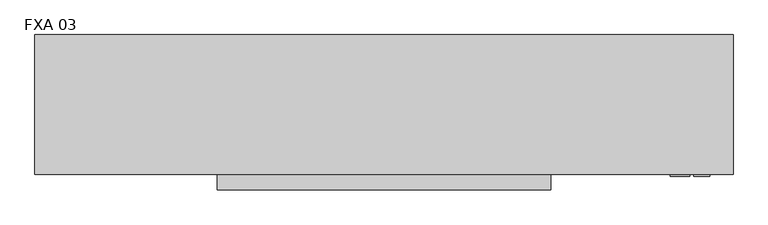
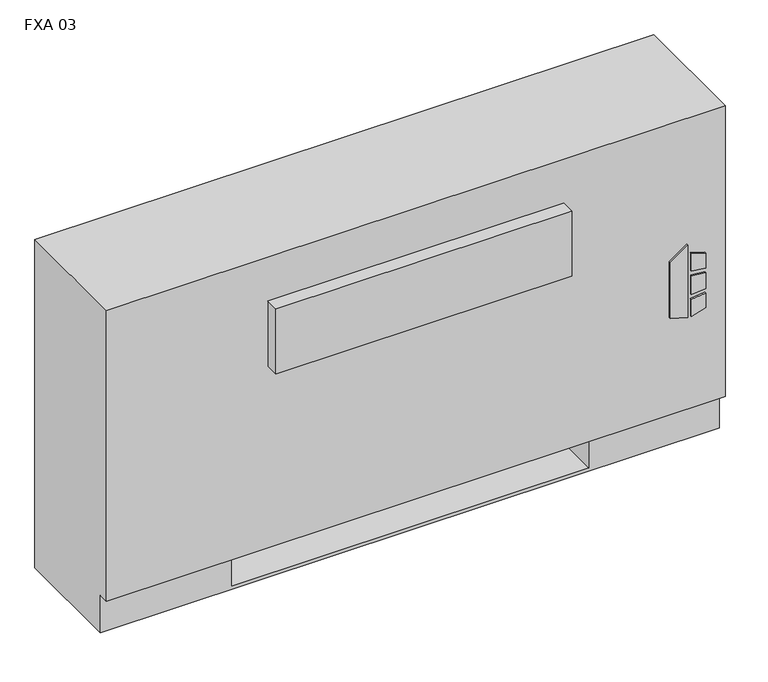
"""IFC4 building model written with IfcOpenShell, lengths in millimetres: proxy geometry, Vertical_Fan_Coil_Unit_-_FXA_-_IEC_-_2-Pipe_FS-FR_LH_2022 : FXA 03."""

from ifc_helpers import new_model, si_unit, point, frame, frame_2d, origin, place, context, project, spatial, polyline, circle_curve, trimmed, segment, composite_curve, outline, extrude, source, transform, mapped, element, save
from ifc_brep_helpers import plane_surface, revolved_surface, advanced_brep


def fxa_03_67163777(model_context):
    return source(origin(), model_context, "Body", "SolidModel", [
        extrude(outline(polyline([(263.9480703, 620.7868862), (254.0, 652.9602728), (396.1709244, 652.9602728), (373.1489183, 620.7868862), (263.9480703, 620.7868862)])), frame((0.0, 12.7, 0.0), z_axis=(0.0, 1.0, 0.0), x_axis=(0.0, 0.0, 1.0)), (0.0, 0.0, 1.0), 3.175),
        extrude(outline(polyline([(342.9473557, 659.7186058), (339.7449632, 685.8), (368.9738042, 685.8), (377.0382193, 659.7186058), (342.9473557, 659.7186058)])), frame((0.0, 12.7, 0.0), z_axis=(0.0, 1.0, 0.0), x_axis=(0.0, 0.0, 1.0)), (0.0, 0.0, 1.0), 3.175),
        extrude(outline(polyline([(291.0838288, 685.8), (287.4183279, 659.7186058), (254.0, 659.7186058), (262.6342372, 685.8), (291.0838288, 685.8)])), frame((0.0, 12.7, 0.0), z_axis=(0.0, 1.0, 0.0), x_axis=(0.0, 0.0, 1.0)), (0.0, 0.0, 1.0), 3.175),
        extrude(outline(polyline([(330.3989903, 685.8), (332.6808166, 659.7186058), (296.7432681, 659.7186058), (299.4845331, 685.8), (330.3989903, 685.8)])), frame((0.0, 12.7, 0.0), z_axis=(0.0, 1.0, 0.0), x_axis=(0.0, 0.0, 1.0)), (0.0, 0.0, 1.0), 3.175),
        extrude(outline(polyline([(603.25, 223.266), (603.25, 81.534), (482.6, 81.534), (482.6, 223.266), (603.25, 223.266)])), frame((0.0, 0.0, 327.025), z_axis=(0.0, 0.0, 1.0), x_axis=(1.0, 0.0, 0.0)), (0.0, 0.0, 1.0), 260.35),
        extrude(outline(composite_curve([segment(trimmed(circle_curve(frame_2d((-241.3, 130.175)), 9.525), [point((-250.825, 130.175))], [point((-231.775, 130.175))], False, "CARTESIAN"), True, "CONTINUOUS"), segment(trimmed(circle_curve(frame_2d((-241.3, 130.175)), 9.525), [point((-231.775, 130.175))], [point((-250.825, 130.175))], False, "CARTESIAN"), True, "CONTINUOUS")], self_intersect=False)), frame((0.0, 0.0, 101.6), z_axis=(0.0, 0.0, 1.0), x_axis=(1.0, 0.0, 0.0)), (0.0, 0.0, 1.0), 25.4),
        extrude(outline(polyline([(-342.9, 63.5), (-342.9, 196.85), (-177.8, 196.85), (-177.8, 63.5), (-342.9, 63.5)])), frame((0.0, 0.0, 127.0), z_axis=(0.0, 0.0, 1.0), x_axis=(1.0, 0.0, 0.0)), (0.0, 0.0, 1.0), 50.8),
        extrude(outline(polyline([(425.45, -9.525), (-120.65, -9.525), (-120.65, 15.875), (425.45, 15.875), (425.45, -9.525)])), frame((0.0, 0.0, 428.625), z_axis=(0.0, 0.0, 1.0), x_axis=(1.0, 0.0, 0.0)), (0.0, 0.0, 1.0), 127.0),
        extrude(outline(composite_curve([segment(trimmed(circle_curve(frame_2d((93.1926, 485.5972)), 7.9375), [point((93.1926, 493.5347))], [point((93.1926, 477.6597))], False, "CARTESIAN"), True, "CONTINUOUS"), segment(trimmed(circle_curve(frame_2d((93.1926, 485.5972)), 7.9375), [point((93.1926, 477.6597))], [point((93.1926, 493.5347))], False, "CARTESIAN"), True, "CONTINUOUS")], self_intersect=False)), frame((-228.6, 0.0, 0.0), z_axis=(1.0, 0.0, 0.0), x_axis=(0.0, 1.0, 0.0)), (0.0, 0.0, 1.0), 50.8),
        extrude(outline(composite_curve([segment(trimmed(circle_curve(frame_2d((141.3002, 458.9526)), 7.9375), [point((141.3002, 466.8901))], [point((141.3002, 451.0151))], False, "CARTESIAN"), True, "CONTINUOUS"), segment(trimmed(circle_curve(frame_2d((141.3002, 458.9526)), 7.9375), [point((141.3002, 451.0151))], [point((141.3002, 466.8901))], False, "CARTESIAN"), True, "CONTINUOUS")], self_intersect=False)), frame((-228.6, 0.0, 0.0), z_axis=(1.0, 0.0, 0.0), x_axis=(0.0, 1.0, 0.0)), (0.0, 0.0, 1.0), 50.8),
        advanced_brep(
        [(723.9, 244.475, 641.35), (-419.1, 244.475, 641.35), (-419.1, 15.875, 641.35), (723.9, 15.875, 641.35), (-419.1, 244.475, 0.0), (723.9, 244.475, 0.0), (723.9, 34.925, 0.0), (-419.1, 34.925, 0.0), (482.6, 244.475, 73.025), (711.2, 244.475, 73.025), (711.2, 244.475, 628.65), (482.6, 244.475, 628.65), (482.6, 244.475, 414.8650565), (511.175, 244.475, 414.8650565), (511.175, 244.475, 385.2349435), (482.6, 244.475, 385.2349435), (482.6, 244.475, 287.3375), (511.175, 244.475, 287.3375), (511.175, 244.475, 258.7625), (482.6, 244.475, 258.7625), (482.6, 244.475, 141.2875), (511.175, 244.475, 141.2875), (511.175, 244.475, 112.7125), (482.6, 244.475, 112.7125), (-177.8, 244.475, 628.65), (-406.4, 244.475, 628.65), (-406.4, 244.475, 73.025), (-177.8, 244.475, 73.025), (-177.8, 244.475, 112.7125), (-206.375, 244.475, 112.7125), (-206.375, 244.475, 141.2875), (-177.8, 244.475, 141.2875), (-177.8, 244.475, 258.7625), (-206.375, 244.475, 258.7625), (-206.375, 244.475, 287.3375), (-177.8, 244.475, 287.3375), (-177.8, 244.475, 385.2349435), (-206.375, 244.475, 385.2349435), (-206.375, 244.475, 414.8650565), (-177.8, 244.475, 414.8650565), (500.8626, 244.475, 127.0), (489.7374, 244.475, 127.0), (500.8626, 244.475, 400.05), (489.7374, 244.475, 400.05), (500.8626, 244.475, 273.05), (489.7374, 244.475, 273.05), (-184.9374, 244.475, 127.0), (-196.0626, 244.475, 127.0), (-184.9374, 244.475, 273.05), (-196.0626, 244.475, 273.05), (-184.9374, 244.475, 400.05), (-196.0626, 244.475, 400.05), (-419.1, 34.925, 73.025), (-419.1, 15.875, 73.025), (723.9, 15.875, 73.025), (723.9, 34.925, 73.025), (-177.8, 34.925, 73.025), (-177.8, 219.075, 73.025), (482.6, 219.075, 73.025), (482.6, 34.925, 73.025), (482.6, 34.925, 6.35), (-177.8, 34.925, 6.35), (482.6, 41.275, 628.65), (711.2, 41.275, 628.65), (711.2, 41.275, 73.025), (482.6, 41.275, 73.025), (-177.8, 41.275, 628.65), (-177.8, 41.275, 73.025), (-406.4, 41.275, 73.025), (-406.4, 41.275, 628.65), (482.6, 219.075, 73.025), (482.6, 238.125, 112.7125), (482.6, 238.125, 141.2875), (482.6, 238.125, 258.7625), (482.6, 238.125, 287.3375), (482.6, 238.125, 385.2349435), (482.6, 238.125, 414.8650565), (-177.8, 219.075, 73.025), (-177.8, 238.125, 414.8650565), (-177.8, 238.125, 385.2349435), (-177.8, 238.125, 287.3375), (-177.8, 238.125, 258.7625), (-177.8, 238.125, 141.2875), (-177.8, 238.125, 112.7125), (-177.8, 219.075, 6.35), (482.6, 219.075, 6.35), (511.175, 238.125, 112.7125), (511.175, 238.125, 141.2875), (489.7374, 238.125, 127.0), (500.8626, 238.125, 127.0), (511.175, 238.125, 258.7625), (511.175, 238.125, 287.3375), (489.7374, 238.125, 273.05), (500.8626, 238.125, 273.05), (511.175, 238.125, 385.2349435), (511.175, 238.125, 414.8650565), (489.7374, 238.125, 400.05), (500.8626, 238.125, 400.05), (-206.375, 238.125, 141.2875), (-206.375, 238.125, 112.7125), (-196.0626, 238.125, 127.0), (-184.9374, 238.125, 127.0), (-206.375, 238.125, 287.3375), (-206.375, 238.125, 258.7625), (-196.0626, 238.125, 273.05), (-184.9374, 238.125, 273.05), (-206.375, 238.125, 414.8650565), (-206.375, 238.125, 385.2349435), (-196.0626, 238.125, 400.05), (-184.9374, 238.125, 400.05)],
        [
            (0, 1),
            (1, 2),
            (2, 3),
            (3, 0),
            (4, 5),
            (5, 6),
            (6, 7),
            (7, 4),
            (0, 5),
            (4, 1),
            (8, 9),
            (9, 10),
            (10, 11),
            (11, 12),
            (12, 13),
            (13, 14),
            (14, 15),
            (15, 16),
            (16, 17),
            (17, 18),
            (18, 19),
            (19, 20),
            (20, 21),
            (21, 22),
            (22, 23),
            (23, 8),
            (24, 25),
            (25, 26),
            (26, 27),
            (27, 28),
            (28, 29),
            (29, 30),
            (30, 31),
            (31, 32),
            (32, 33),
            (33, 34),
            (34, 35),
            (35, 36),
            (36, 37),
            (37, 38),
            (38, 39),
            (39, 24),
            (40, 41, circle_curve(frame((495.3, 244.475, 127.0), z_axis=(0.0, -1.0, 0.0), x_axis=(-1.0, 0.0, 0.0)), 5.5626)),
            (41, 40, circle_curve(frame((495.3, 244.475, 127.0), z_axis=(0.0, -1.0, 0.0), x_axis=(-1.0, 0.0, 0.0)), 5.5626)),
            (42, 43, circle_curve(frame((495.3, 244.475, 400.05), z_axis=(0.0, -1.0, 0.0), x_axis=(-1.0, 0.0, 0.0)), 5.5626)),
            (43, 42, circle_curve(frame((495.3, 244.475, 400.05), z_axis=(0.0, -1.0, 0.0), x_axis=(-1.0, 0.0, 0.0)), 5.5626)),
            (44, 45, circle_curve(frame((495.3, 244.475, 273.05), z_axis=(0.0, -1.0, 0.0), x_axis=(-1.0, 0.0, 0.0)), 5.5626)),
            (45, 44, circle_curve(frame((495.3, 244.475, 273.05), z_axis=(0.0, -1.0, 0.0), x_axis=(-1.0, 0.0, 0.0)), 5.5626)),
            (46, 47, circle_curve(frame((-190.5, 244.475, 127.0), z_axis=(0.0, -1.0, 0.0), x_axis=(-1.0, 0.0, 0.0)), 5.5626)),
            (47, 46, circle_curve(frame((-190.5, 244.475, 127.0), z_axis=(0.0, -1.0, 0.0), x_axis=(-1.0, 0.0, 0.0)), 5.5626)),
            (48, 49, circle_curve(frame((-190.5, 244.475, 273.05), z_axis=(0.0, -1.0, 0.0), x_axis=(-1.0, 0.0, 0.0)), 5.5626)),
            (49, 48, circle_curve(frame((-190.5, 244.475, 273.05), z_axis=(0.0, -1.0, 0.0), x_axis=(-1.0, 0.0, 0.0)), 5.5626)),
            (50, 51, circle_curve(frame((-190.5, 244.475, 400.05), z_axis=(0.0, -1.0, 0.0), x_axis=(-1.0, 0.0, 0.0)), 5.5626)),
            (51, 50, circle_curve(frame((-190.5, 244.475, 400.05), z_axis=(0.0, -1.0, 0.0), x_axis=(-1.0, 0.0, 0.0)), 5.5626)),
            (7, 52),
            (52, 53),
            (53, 2),
            (53, 54),
            (54, 3),
            (54, 55),
            (55, 6),
            (52, 56),
            (56, 57),
            (57, 58),
            (58, 59),
            (59, 55),
            (59, 60),
            (60, 61),
            (61, 56),
            (62, 63),
            (63, 64),
            (64, 65),
            (65, 62),
            (66, 67),
            (67, 68),
            (68, 69),
            (69, 66),
            (65, 70),
            (70, 8),
            (23, 71),
            (71, 72),
            (72, 20),
            (19, 73),
            (73, 74),
            (74, 16),
            (15, 75),
            (75, 76),
            (76, 12),
            (11, 62),
            (64, 9),
            (63, 10),
            (69, 25),
            (24, 66),
            (68, 26),
            (67, 77),
            (77, 27),
            (39, 78),
            (78, 79),
            (79, 36),
            (35, 80),
            (80, 81),
            (81, 32),
            (31, 82),
            (82, 83),
            (83, 28),
            (57, 84),
            (84, 85),
            (85, 58),
            (85, 60),
            (84, 61),
            (71, 86),
            (86, 87),
            (87, 72),
            (88, 89, circle_curve(frame((495.3, 238.125, 127.0), z_axis=(0.0, 1.0, 0.0), x_axis=(-1.0, 0.0, 0.0)), 5.5626)),
            (89, 88, circle_curve(frame((495.3, 238.125, 127.0), z_axis=(0.0, 1.0, 0.0), x_axis=(-1.0, 0.0, 0.0)), 5.5626)),
            (73, 90),
            (90, 91),
            (91, 74),
            (92, 93, circle_curve(frame((495.3, 238.125, 273.05), z_axis=(0.0, 1.0, 0.0), x_axis=(-1.0, 0.0, 0.0)), 5.5626)),
            (93, 92, circle_curve(frame((495.3, 238.125, 273.05), z_axis=(0.0, 1.0, 0.0), x_axis=(-1.0, 0.0, 0.0)), 5.5626)),
            (75, 94),
            (94, 95),
            (95, 76),
            (96, 97, circle_curve(frame((495.3, 238.125, 400.05), z_axis=(0.0, 1.0, 0.0), x_axis=(-1.0, 0.0, 0.0)), 5.5626)),
            (97, 96, circle_curve(frame((495.3, 238.125, 400.05), z_axis=(0.0, 1.0, 0.0), x_axis=(-1.0, 0.0, 0.0)), 5.5626)),
            (98, 99),
            (99, 83),
            (82, 98),
            (100, 101, circle_curve(frame((-190.5, 238.125, 127.0), z_axis=(0.0, 1.0, 0.0), x_axis=(-1.0, 0.0, 0.0)), 5.5626)),
            (101, 100, circle_curve(frame((-190.5, 238.125, 127.0), z_axis=(0.0, 1.0, 0.0), x_axis=(-1.0, 0.0, 0.0)), 5.5626)),
            (102, 103),
            (103, 81),
            (80, 102),
            (104, 105, circle_curve(frame((-190.5, 238.125, 273.05), z_axis=(0.0, 1.0, 0.0), x_axis=(-1.0, 0.0, 0.0)), 5.5626)),
            (105, 104, circle_curve(frame((-190.5, 238.125, 273.05), z_axis=(0.0, 1.0, 0.0), x_axis=(-1.0, 0.0, 0.0)), 5.5626)),
            (106, 107),
            (107, 79),
            (78, 106),
            (108, 109, circle_curve(frame((-190.5, 238.125, 400.05), z_axis=(0.0, 1.0, 0.0), x_axis=(-1.0, 0.0, 0.0)), 5.5626)),
            (109, 108, circle_curve(frame((-190.5, 238.125, 400.05), z_axis=(0.0, 1.0, 0.0), x_axis=(-1.0, 0.0, 0.0)), 5.5626)),
            (87, 21),
            (86, 22),
            (91, 17),
            (90, 18),
            (95, 13),
            (94, 14),
            (30, 98),
            (99, 29),
            (34, 102),
            (103, 33),
            (38, 106),
            (107, 37),
            (88, 41),
            (40, 89),
            (96, 43),
            (42, 97),
            (92, 45),
            (44, 93),
            (100, 47),
            (46, 101),
            (104, 49),
            (48, 105),
            (108, 51),
            (50, 109),
        ],
        [
            plane_surface(frame((-419.1, 244.475, 641.35), z_axis=(0.0, 0.0, 1.0), x_axis=(-1.0, 0.0, 0.0))),
            plane_surface(frame((-419.1, 244.475, 0.0), z_axis=(0.0, 0.0, -1.0), x_axis=(1.0, 0.0, 0.0))),
            plane_surface(frame((723.9, 244.475, 641.35), z_axis=(0.0, 1.0, 0.0), x_axis=(0.0, 0.0, -1.0))),
            plane_surface(frame((-419.1, 244.475, 641.35), z_axis=(-1.0, 0.0, 0.0), x_axis=(0.0, 0.0, -1.0))),
            plane_surface(frame((-419.1, 15.875, 641.35), z_axis=(0.0, -1.0, 0.0), x_axis=(0.0, 0.0, -1.0))),
            plane_surface(frame((723.9, 15.875, 641.35), z_axis=(1.0, 0.0, 0.0), x_axis=(0.0, 0.0, -1.0))),
            plane_surface(frame((-419.1, 15.875, 73.025), z_axis=(0.0, 0.0, -1.0), x_axis=(1.0, 0.0, 0.0))),
            plane_surface(frame((-419.1, 34.925, 73.025), z_axis=(0.0, -1.0, 0.0), x_axis=(1.0, 0.0, 0.0))),
            plane_surface(frame((482.6, 41.275, 628.65), z_axis=(0.0, 1.0, 0.0), x_axis=(0.0, 0.0, -1.0))),
            plane_surface(frame((482.6, 41.275, 628.65), z_axis=(1.0, 0.0, 0.0), x_axis=(0.0, 1.0, 0.0))),
            plane_surface(frame((482.6, 41.275, 73.025), z_axis=(0.0, 0.0, 1.0), x_axis=(0.0, 1.0, 0.0))),
            plane_surface(frame((711.2, 41.275, 73.025), z_axis=(-1.0, 0.0, 0.0), x_axis=(0.0, 1.0, 0.0))),
            plane_surface(frame((711.2, 41.275, 628.65), z_axis=(0.0, 0.0, -1.0), x_axis=(0.0, 1.0, 0.0))),
            plane_surface(frame((-177.8, 41.275, 628.65), z_axis=(0.0, 0.0, -1.0), x_axis=(0.0, 1.0, 0.0))),
            plane_surface(frame((-406.4, 41.275, 628.65), z_axis=(1.0, 0.0, 0.0), x_axis=(0.0, 1.0, 0.0))),
            plane_surface(frame((-406.4, 41.275, 73.025), z_axis=(0.0, 0.0, 1.0), x_axis=(0.0, 1.0, 0.0))),
            plane_surface(frame((-177.8, 41.275, 73.025), z_axis=(-1.0, 0.0, 0.0), x_axis=(0.0, 1.0, 0.0))),
            plane_surface(frame((482.6, 219.075, 73.025), z_axis=(0.0, -1.0, 0.0), x_axis=(0.0, 0.0, -1.0))),
            plane_surface(frame((482.6, 219.075, 73.025), z_axis=(-1.0, 0.0, 0.0), x_axis=(0.0, -1.0, 0.0))),
            plane_surface(frame((482.6, 219.075, 6.35), z_axis=(0.0, 0.0, 1.0), x_axis=(0.0, -1.0, 0.0))),
            plane_surface(frame((-177.8, 219.075, 6.35), z_axis=(1.0, 0.0, 0.0), x_axis=(0.0, -1.0, 0.0))),
            plane_surface(frame((511.175, 238.125, 141.2875), z_axis=(0.0, -1.0, 0.0), x_axis=(-1.0, 0.0, 0.0))),
            plane_surface(frame((482.6, 244.475, 141.2875), z_axis=(0.0, 0.0, 1.0), x_axis=(0.0, -1.0, 0.0))),
            plane_surface(frame((511.175, 244.475, 141.2875), z_axis=(1.0, 0.0, 0.0), x_axis=(0.0, -1.0, 0.0))),
            plane_surface(frame((511.175, 244.475, 112.7125), z_axis=(0.0, 0.0, -1.0), x_axis=(0.0, -1.0, 0.0))),
            plane_surface(frame((482.6, 244.475, 287.3375), z_axis=(0.0, 0.0, 1.0), x_axis=(0.0, -1.0, 0.0))),
            plane_surface(frame((511.175, 244.475, 287.3375), z_axis=(1.0, 0.0, 0.0), x_axis=(0.0, -1.0, 0.0))),
            plane_surface(frame((511.175, 244.475, 258.7625), z_axis=(0.0, 0.0, -1.0), x_axis=(0.0, -1.0, 0.0))),
            plane_surface(frame((482.6, 244.475, 414.8650565), z_axis=(0.0, 0.0, 1.0), x_axis=(0.0, -1.0, 0.0))),
            plane_surface(frame((511.175, 244.475, 414.8650565), z_axis=(1.0, 0.0, 0.0), x_axis=(0.0, -1.0, 0.0))),
            plane_surface(frame((511.175, 244.475, 385.2349435), z_axis=(0.0, 0.0, -1.0), x_axis=(0.0, -1.0, 0.0))),
            plane_surface(frame((-206.375, 244.475, 141.2875), z_axis=(0.0, 0.0, 1.0), x_axis=(0.0, -1.0, 0.0))),
            plane_surface(frame((-177.8, 244.475, 112.7125), z_axis=(0.0, 0.0, -1.0), x_axis=(0.0, -1.0, 0.0))),
            plane_surface(frame((-206.375, 244.475, 112.7125), z_axis=(-1.0, 0.0, 0.0), x_axis=(0.0, -1.0, 0.0))),
            plane_surface(frame((-206.375, 244.475, 287.3375), z_axis=(0.0, 0.0, 1.0), x_axis=(0.0, -1.0, 0.0))),
            plane_surface(frame((-177.8, 244.475, 258.7625), z_axis=(0.0, 0.0, -1.0), x_axis=(0.0, -1.0, 0.0))),
            plane_surface(frame((-206.375, 244.475, 258.7625), z_axis=(-1.0, 0.0, 0.0), x_axis=(0.0, -1.0, 0.0))),
            plane_surface(frame((-206.375, 244.475, 414.8650565), z_axis=(0.0, 0.0, 1.0), x_axis=(0.0, -1.0, 0.0))),
            plane_surface(frame((-177.8, 244.475, 385.2349435), z_axis=(0.0, 0.0, -1.0), x_axis=(0.0, -1.0, 0.0))),
            plane_surface(frame((-206.375, 244.475, 385.2349435), z_axis=(-1.0, 0.0, 0.0), x_axis=(0.0, -1.0, 0.0))),
            revolved_surface(polyline([(489.73740000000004, 238.125, 127.0), (489.73740000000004, 244.475, 127.0)]), (495.3, 244.475, 127.0), (0.0, -1.0, 0.0)),
            revolved_surface(polyline([(489.73740000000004, 238.125, 400.05), (489.73740000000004, 244.475, 400.05)]), (495.3, 244.475, 400.05), (0.0, -1.0, 0.0)),
            revolved_surface(polyline([(489.73740000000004, 238.125, 273.05), (489.73740000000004, 244.475, 273.05)]), (495.3, 244.475, 273.05), (0.0, -1.0, 0.0)),
            revolved_surface(polyline([(-196.0626, 238.125, 127.0), (-196.0626, 244.475, 127.0)]), (-190.5, 244.475, 127.0), (0.0, -1.0, 0.0)),
            revolved_surface(polyline([(-196.0626, 238.125, 273.05), (-196.0626, 244.475, 273.05)]), (-190.5, 244.475, 273.05), (0.0, -1.0, 0.0)),
            revolved_surface(polyline([(-196.0626, 238.125, 400.05), (-196.0626, 244.475, 400.05)]), (-190.5, 244.475, 400.05), (0.0, -1.0, 0.0)),
        ],
        [
            (0, [[1, 2, 3, 4]]),
            (1, [[5, 6, 7, 8]]),
            (2, [[-1, 9, -5, 10], [11, 12, 13, 14, 15, 16, 17, 18, 19, 20, 21, 22, 23, 24, 25, 26], [27, 28, 29, 30, 31, 32, 33, 34, 35, 36, 37, 38, 39, 40, 41, 42], [43, 44], [45, 46], [47, 48], [49, 50], [51, 52], [53, 54]]),
            (3, [[-2, -10, -8, 55, 56, 57]]),
            (4, [[-3, -57, 58, 59]]),
            (5, [[-4, -59, 60, 61, -6, -9]]),
            (6, [[-56, 62, 63, 64, 65, 66, -60, -58]]),
            (7, [[-7, -61, -66, 67, 68, 69, -62, -55]]),
            (8, [[70, 71, 72, 73]]),
            (8, [[74, 75, 76, 77]]),
            (9, [[-73, 78, 79, -26, 80, 81, 82, -22, 83, 84, 85, -18, 86, 87, 88, -14, 89]]),
            (10, [[-72, 90, -11, -79, -78]]),
            (11, [[-71, 91, -12, -90]]),
            (12, [[-70, -89, -13, -91]]),
            (13, [[-77, 92, -27, 93]]),
            (14, [[-76, 94, -28, -92]]),
            (15, [[-75, 95, 96, -29, -94]]),
            (16, [[-74, -93, -42, 97, 98, 99, -38, 100, 101, 102, -34, 103, 104, 105, -30, -96, -95]]),
            (17, [[-64, 106, 107, 108]]),
            (18, [[-108, 109, -67, -65]]),
            (19, [[-107, 110, -68, -109]]),
            (20, [[-106, -63, -69, -110]]),
            (21, [[111, 112, 113, -81], [114, 115]]),
            (21, [[116, 117, 118, -84], [119, 120]]),
            (21, [[121, 122, 123, -87], [124, 125]]),
            (21, [[126, 127, -104, 128], [129, 130]]),
            (21, [[131, 132, -101, 133], [134, 135]]),
            (21, [[136, 137, -98, 138], [139, 140]]),
            (22, [[-113, 141, -23, -82]]),
            (23, [[-112, 142, -24, -141]]),
            (24, [[-111, -80, -25, -142]]),
            (25, [[-118, 143, -19, -85]]),
            (26, [[-117, 144, -20, -143]]),
            (27, [[-116, -83, -21, -144]]),
            (28, [[-123, 145, -15, -88]]),
            (29, [[-122, 146, -16, -145]]),
            (30, [[-121, -86, -17, -146]]),
            (31, [[-128, -103, -33, 147]]),
            (32, [[-127, 148, -31, -105]]),
            (33, [[-126, -147, -32, -148]]),
            (34, [[-133, -100, -37, 149]]),
            (35, [[-132, 150, -35, -102]]),
            (36, [[-131, -149, -36, -150]]),
            (37, [[-138, -97, -41, 151]]),
            (38, [[-137, 152, -39, -99]]),
            (39, [[-136, -151, -40, -152]]),
            (40, [[153, -43, 154, -114]]),
            (40, [[-153, -115, -154, -44]]),
            (41, [[155, -45, 156, -124]]),
            (41, [[-155, -125, -156, -46]]),
            (42, [[157, -47, 158, -119]]),
            (42, [[-157, -120, -158, -48]]),
            (43, [[159, -49, 160, -129]]),
            (43, [[-159, -130, -160, -50]]),
            (44, [[161, -51, 162, -134]]),
            (44, [[-161, -135, -162, -52]]),
            (45, [[163, -53, 164, -139]]),
            (45, [[-163, -140, -164, -54]]),
        ],
    ),
    ])


if __name__ == "__main__":
    model = new_model("IFC4")
    model_context = context("Model", 3, world=origin())
    ifc_project = project(units=[si_unit("LENGTHUNIT", "METRE", prefix="MILLI")], contexts=[model_context])
    site = spatial("IfcSite", under=ifc_project)
    building = spatial("IfcBuilding", under=site)
    placement = place(None, origin())
    fxa_03_shape = fxa_03_67163777(model_context)
    element("IfcBuildingElementProxy", 1, Name="Vertical_Fan_Coil_Unit_-_FXA_-_IEC_-_2-Pipe_FS-FR_LH_2022 : FXA 03", ObjectType="Vertical_Fan_Coil_Unit_-_FXA_-_IEC_-_2-Pipe_FS-FR_LH_2022 : FXA 03", at=placement, inside=building, context=model_context, shape_type="MappedRepresentation", body=[
        mapped(fxa_03_shape, transform((0.0, 0.0, 0.0), x_axis=(1.0, 0.0, 0.0), y_axis=(0.0, 1.0, 0.0), z_axis=(0.0, 0.0, 1.0))),
    ])
    save(model, "model.ifc")
